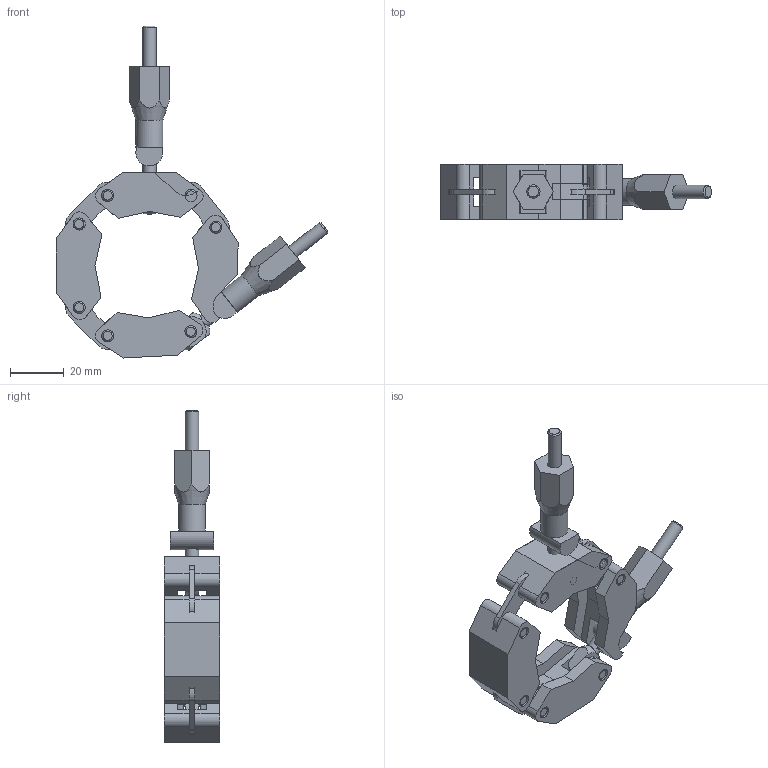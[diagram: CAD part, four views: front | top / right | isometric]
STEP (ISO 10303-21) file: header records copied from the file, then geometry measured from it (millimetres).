
FILE_DESCRIPTION( ( 'Unknown' ), '1' );
FILE_NAME( 'X:/Daten ( aktueller Bestand )/Projekte und Zeichnungen/Solid Edge/5 Spannringe/Alu/Spannrollenkette/1332.stp', 'Unknown', ( 'Unknown' ), ( 'Unknown' ), 'XStep 1.0', 'Unknown', ' ' );
FILE_SCHEMA( ( 'automotive_design' ) );
Length unit declared in the file: millimetre
Products named in the file (7): Assem1; 1331-1; 1331-2; 1331-11; 1331-32; 1331-12; 1331-4
Bounding box: 100.94 x 20.5 x 123.41 mm (x, y, z)
Volume: 66898.7 mm3; surface area: 36099.1 mm2
Topology: 21 solids, 21 shells, 359 faces, 931 edges, 620 vertices
Faces by surface type: plane 241, cylinder 94, cone 20, torus 4
Full cylindrical faces by diameter (mm): 4.4 x8, 4.5 x32, 5 x6, 10 x2
Entity records: 4980 total; most frequent: CARTESIAN_POINT 1092, DIRECTION 722, ORIENTED_EDGE 688, EDGE_CURVE 344, LINE 254, VECTOR 254, VERTEX_POINT 240, AXIS2_PLACEMENT_3D 234
